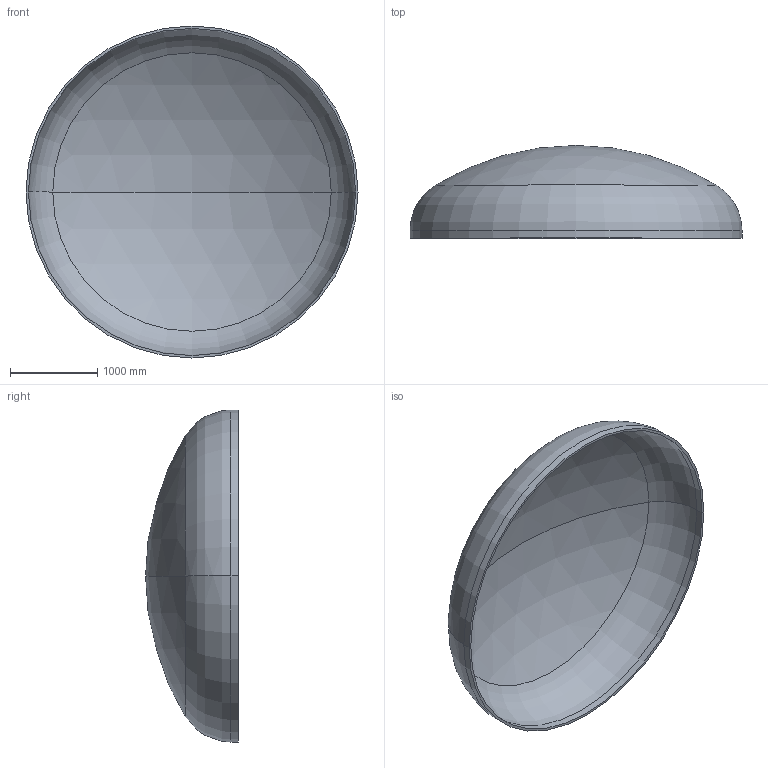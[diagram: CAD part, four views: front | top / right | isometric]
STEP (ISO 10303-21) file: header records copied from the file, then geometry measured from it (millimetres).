
FILE_DESCRIPTION (( 'STEP AP203' ), '1' );
FILE_NAME ('DIN 28013 Korbbogenform_-_Boden DIN 28013 - 3800 x 85 - I - s=28.step', '2016-07-01T21:14:11', ( '' ), ( '' ), 'SwSTEP 2.0', 'SolidWorks 2013', '' );
FILE_SCHEMA (( 'CONFIG_CONTROL_DESIGN' ));
Length unit declared in the file: millimetre
Products named in the file (1): DIN 28013 Korbbogenform_-_Boden DIN 28013 - 3800 x 85 - I - s=28
Bounding box: 3800 x 1062.39 x 3800 mm (x, y, z)
Volume: 463719473 mm3; surface area: 33456251.3 mm2
Topology: 1 solids, 1 shells, 13 faces, 24 edges, 14 vertices
Faces by surface type: torus 4, cylinder 4, sphere 4, plane 1
Entity records: 407 total; most frequent: DIRECTION 72, CARTESIAN_POINT 52, ORIENTED_EDGE 48, AXIS2_PLACEMENT_3D 34, EDGE_CURVE 24, CIRCLE 20, VERTEX_POINT 14, EDGE_LOOP 14
